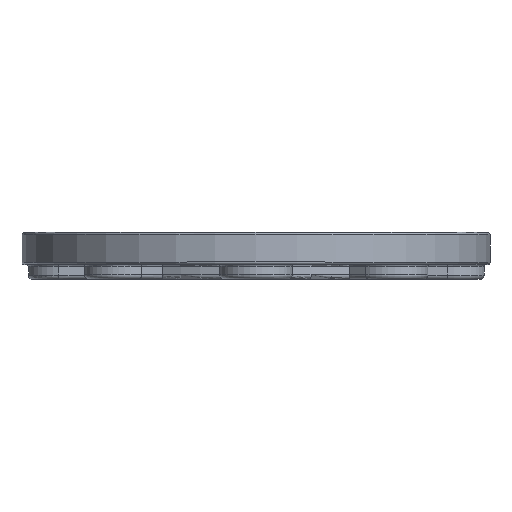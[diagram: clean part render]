
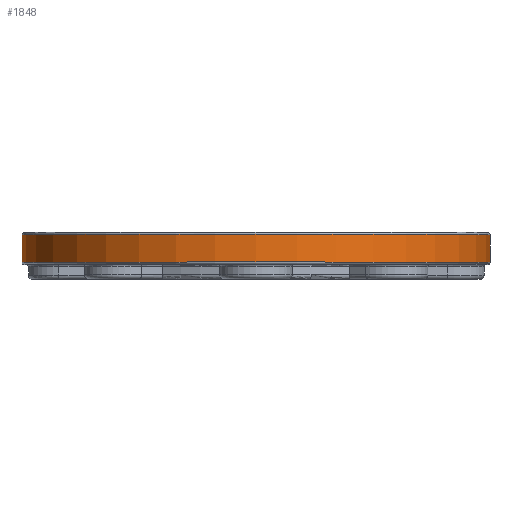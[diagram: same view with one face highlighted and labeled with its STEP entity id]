
A CAD part, top view. The second image highlights one B-rep face of the part: STEP entity #1848.
In plain terms, the highlighted cylindrical face has radius 110 mm (diameter 220 mm), a full revolution.
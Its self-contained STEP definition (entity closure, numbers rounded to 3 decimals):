
#132=CYLINDRICAL_SURFACE('',#2038,110.);
#230=CIRCLE('',#2039,110.);
#231=CIRCLE('',#2040,110.);
#383=ORIENTED_EDGE('',*,*,#890,.T.);
#384=ORIENTED_EDGE('',*,*,#891,.T.);
#890=EDGE_CURVE('',#1154,#1154,#230,.T.);
#891=EDGE_CURVE('',#1155,#1155,#231,.F.);
#1154=VERTEX_POINT('',#2954);
#1155=VERTEX_POINT('',#2956);
#1504=EDGE_LOOP('',(#383));
#1505=EDGE_LOOP('',(#384));
#1682=FACE_BOUND('',#1504,.T.);
#1683=FACE_BOUND('',#1505,.T.);
#1848=ADVANCED_FACE('',(#1682,#1683),#132,.T.);
#2038=AXIS2_PLACEMENT_3D('',#2952,#2372,#2373);
#2039=AXIS2_PLACEMENT_3D('',#2953,#2374,#2375);
#2040=AXIS2_PLACEMENT_3D('',#2955,#2376,#2377);
#2372=DIRECTION('',(0.,-1.,0.));
#2373=DIRECTION('',(0.,0.,-1.));
#2374=DIRECTION('',(0.,1.,0.));
#2375=DIRECTION('',(0.,0.,1.));
#2376=DIRECTION('',(0.,1.,0.));
#2377=DIRECTION('',(0.,0.,1.));
#2952=CARTESIAN_POINT('',(0.,22.,0.));
#2953=CARTESIAN_POINT('',(0.,8.,0.));
#2954=CARTESIAN_POINT('',(0.,8.,110.));
#2955=CARTESIAN_POINT('',(0.,21.,0.));
#2956=CARTESIAN_POINT('',(0.,21.,110.));
